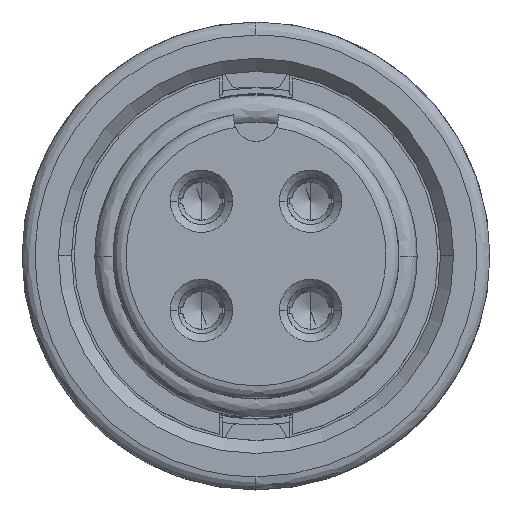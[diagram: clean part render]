
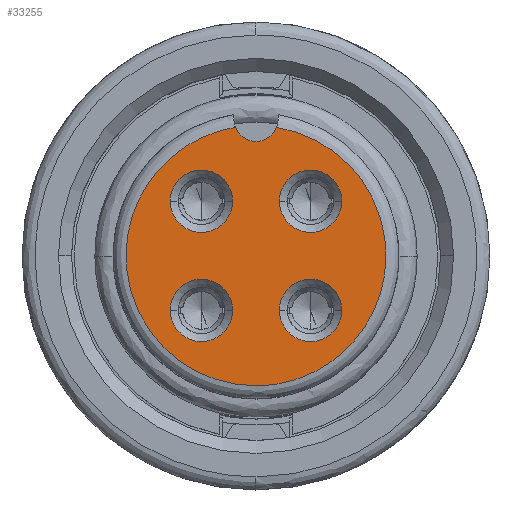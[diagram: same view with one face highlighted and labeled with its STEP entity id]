
A CAD part, top view. The second image highlights one B-rep face of the part: STEP entity #33255.
In plain terms, the highlighted planar face has unit normal (0, 0, 1).
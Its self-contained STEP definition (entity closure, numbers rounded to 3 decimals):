
#429 = CARTESIAN_POINT ( 'NONE',  ( 0.79, 4.937, 0. ) ) ;
#453 = CARTESIAN_POINT ( 'NONE',  ( 0.001, -0.031, 0. ) ) ;
#532 = ORIENTED_EDGE ( 'NONE', *, *, #28246, .T. ) ;
#1366 = DIRECTION ( 'NONE',  ( 0., 0., -1. ) ) ;
#1671 = CIRCLE ( 'NONE', #4071, 1.2 ) ;
#1727 = CIRCLE ( 'NONE', #33353, 1.2 ) ;
#1783 = AXIS2_PLACEMENT_3D ( 'NONE', #11179, #14167, #17366 ) ;
#2343 = CARTESIAN_POINT ( 'NONE',  ( -8.571, -4.896, 0. ) ) ;
#2472 = EDGE_CURVE ( 'NONE', #10173, #30025, #10443, .T. ) ;
#2699 = CARTESIAN_POINT ( 'NONE',  ( -0.79, 4.937, 0. ) ) ;
#3432 = PLANE ( 'NONE',  #16755 ) ;
#3855 = DIRECTION ( 'NONE',  ( 1., 0., 0. ) ) ;
#3883 = ORIENTED_EDGE ( 'NONE', *, *, #36364, .T. ) ;
#3912 = CARTESIAN_POINT ( 'NONE',  ( -0.061, -5., 0. ) ) ;
#3961 = CARTESIAN_POINT ( 'NONE',  ( -0.9, 2.1, 0. ) ) ;
#3971 = CARTESIAN_POINT ( 'NONE',  ( -3.3, -2.1, 0. ) ) ;
#3977 = VERTEX_POINT ( 'NONE', #33807 ) ;
#3980 = DIRECTION ( 'NONE',  ( 1., 0., 0. ) ) ;
#4071 = AXIS2_PLACEMENT_3D ( 'NONE', #23406, #17262, #8645 ) ;
#4494 = EDGE_CURVE ( 'NONE', #32514, #3977, #20882, .T. ) ;
#5458 = DIRECTION ( 'NONE',  ( 0., 0., -1. ) ) ;
#5495 = CARTESIAN_POINT ( 'NONE',  ( -0.061, -5., 0. ) ) ;
#5694 = DIRECTION ( 'NONE',  ( 1., 0., 0. ) ) ;
#5826 = EDGE_LOOP ( 'NONE', ( #9621, #532 ) ) ;
#5859 = CARTESIAN_POINT ( 'NONE',  ( 9.38, 3.562, 0. ) ) ;
#7075 = ORIENTED_EDGE ( 'NONE', *, *, #13861, .T. ) ;
#7163 = ORIENTED_EDGE ( 'NONE', *, *, #9454, .T. ) ;
#8645 = DIRECTION ( 'NONE',  ( 1., 0., 0. ) ) ;
#9392 = CIRCLE ( 'NONE', #15481, 1.2 ) ;
#9454 = EDGE_CURVE ( 'NONE', #11632, #26529, #19552, .T. ) ;
#9621 = ORIENTED_EDGE ( 'NONE', *, *, #2472, .T. ) ;
#10008 = DIRECTION ( 'NONE',  ( 1., 0., 0. ) ) ;
#10055 = DIRECTION ( 'NONE',  ( 0., 0., -1. ) ) ;
#10173 = VERTEX_POINT ( 'NONE', #30697 ) ;
#10443 = CIRCLE ( 'NONE', #14634, 1.2 ) ;
#11179 = CARTESIAN_POINT ( 'NONE',  ( -2.1, -2.1, 0. ) ) ;
#11538 = VERTEX_POINT ( 'NONE', #3912 ) ;
#11632 = VERTEX_POINT ( 'NONE', #15686 ) ;
#11673 = VERTEX_POINT ( 'NONE', #18491 ) ;
#12076 = EDGE_CURVE ( 'NONE', #32514, #11538, #23631, .T. ) ;
#12251 = CARTESIAN_POINT ( 'NONE',  ( 2.1, -2.1, 0. ) ) ;
#12545 = DIRECTION ( 'NONE',  ( 0., 0., -1. ) ) ;
#13013 = EDGE_LOOP ( 'NONE', ( #23378, #35116, #20607 ) ) ;
#13466 = DIRECTION ( 'NONE',  ( 1., 0., 0. ) ) ;
#13861 = EDGE_CURVE ( 'NONE', #11673, #33564, #1671, .T. ) ;
#14167 = DIRECTION ( 'NONE',  ( 0., 0., -1. ) ) ;
#14177 = CARTESIAN_POINT ( 'NONE',  ( 0.79, 4.937, 0. ) ) ;
#14634 = AXIS2_PLACEMENT_3D ( 'NONE', #24165, #1366, #3980 ) ;
#15105 = CARTESIAN_POINT ( 'NONE',  ( 0.9, -2.1, 0. ) ) ;
#15481 = AXIS2_PLACEMENT_3D ( 'NONE', #15492, #10055, #26880 ) ;
#15492 = CARTESIAN_POINT ( 'NONE',  ( -2.1, -2.1, 0. ) ) ;
#15686 = CARTESIAN_POINT ( 'NONE',  ( 0.9, 2.1, 0. ) ) ;
#15992 = EDGE_CURVE ( 'NONE', #33564, #11673, #1727, .T. ) ;
#16755 = AXIS2_PLACEMENT_3D ( 'NONE', #453, #34085, #5694 ) ;
#16796 = CARTESIAN_POINT ( 'NONE',  ( 0., 5.25, 0. ) ) ;
#16928 = CARTESIAN_POINT ( 'NONE',  ( -9.194, 3.592, 0. ) ) ;
#17262 = DIRECTION ( 'NONE',  ( 0., 0., -1. ) ) ;
#17366 = DIRECTION ( 'NONE',  ( 1., 0., 0. ) ) ;
#17643 = FACE_BOUND ( 'NONE', #30484, .T. ) ;
#17815 = CARTESIAN_POINT ( 'NONE',  ( 2.1, 2.1, 0. ) ) ;
#17966 =( BOUNDED_CURVE ( )  B_SPLINE_CURVE ( 3, ( #19716, #2343, #16928, #2699 ),
 .UNSPECIFIED., .F., .F. ) 
 B_SPLINE_CURVE_WITH_KNOTS ( ( 4, 4 ),
 ( 0., 1. ),
 .UNSPECIFIED. ) 
 CURVE ( )  GEOMETRIC_REPRESENTATION_ITEM ( )  RATIONAL_B_SPLINE_CURVE ( ( 1., 0.39, 0.39, 1. ) ) 
 REPRESENTATION_ITEM ( '' )  );
#18360 = VERTEX_POINT ( 'NONE', #30076 ) ;
#18491 = CARTESIAN_POINT ( 'NONE',  ( 3.3, -2.1, 0. ) ) ;
#18707 = EDGE_LOOP ( 'NONE', ( #21242, #7075 ) ) ;
#18967 = AXIS2_PLACEMENT_3D ( 'NONE', #30016, #35971, #10008 ) ;
#19552 = CIRCLE ( 'NONE', #18967, 1.2 ) ;
#19716 = CARTESIAN_POINT ( 'NONE',  ( -0.061, -5., 0. ) ) ;
#19889 = ORIENTED_EDGE ( 'NONE', *, *, #31361, .T. ) ;
#19970 = ORIENTED_EDGE ( 'NONE', *, *, #23114, .T. ) ;
#20607 = ORIENTED_EDGE ( 'NONE', *, *, #34343, .F. ) ;
#20877 = DIRECTION ( 'NONE',  ( 1., 0., 0. ) ) ;
#20882 = CIRCLE ( 'NONE', #36960, 0.85 ) ;
#21242 = ORIENTED_EDGE ( 'NONE', *, *, #15992, .T. ) ;
#22690 = FACE_BOUND ( 'NONE', #35067, .T. ) ;
#23114 = EDGE_CURVE ( 'NONE', #26529, #11632, #23589, .T. ) ;
#23378 = ORIENTED_EDGE ( 'NONE', *, *, #12076, .F. ) ;
#23406 = CARTESIAN_POINT ( 'NONE',  ( 2.1, -2.1, 0. ) ) ;
#23428 = FACE_BOUND ( 'NONE', #18707, .T. ) ;
#23589 = CIRCLE ( 'NONE', #31323, 1.2 ) ;
#23612 = CIRCLE ( 'NONE', #26836, 1.2 ) ;
#23631 =( BOUNDED_CURVE ( )  B_SPLINE_CURVE ( 3, ( #429, #5859, #34063, #5495 ),
 .UNSPECIFIED., .F., .T. ) 
 B_SPLINE_CURVE_WITH_KNOTS ( ( 4, 4 ),
 ( 0., 1. ),
 .UNSPECIFIED. ) 
 CURVE ( )  GEOMETRIC_REPRESENTATION_ITEM ( )  RATIONAL_B_SPLINE_CURVE ( ( 1., 0.382, 0.382, 1. ) ) 
 REPRESENTATION_ITEM ( '' )  );
#24165 = CARTESIAN_POINT ( 'NONE',  ( -2.1, 2.1, 0. ) ) ;
#25252 = CARTESIAN_POINT ( 'NONE',  ( -2.1, 2.1, 0. ) ) ;
#26529 = VERTEX_POINT ( 'NONE', #30434 ) ;
#26836 = AXIS2_PLACEMENT_3D ( 'NONE', #25252, #5458, #13466 ) ;
#26880 = DIRECTION ( 'NONE',  ( 1., 0., 0. ) ) ;
#28246 = EDGE_CURVE ( 'NONE', #30025, #10173, #23612, .T. ) ;
#29022 = FACE_OUTER_BOUND ( 'NONE', #13013, .T. ) ;
#29191 = DIRECTION ( 'NONE',  ( 1., 0., 0. ) ) ;
#29639 = DIRECTION ( 'NONE',  ( 0., 0., -1. ) ) ;
#30016 = CARTESIAN_POINT ( 'NONE',  ( 2.1, 2.1, 0. ) ) ;
#30025 = VERTEX_POINT ( 'NONE', #3961 ) ;
#30076 = CARTESIAN_POINT ( 'NONE',  ( -0.9, -2.1, 0. ) ) ;
#30434 = CARTESIAN_POINT ( 'NONE',  ( 3.3, 2.1, 0. ) ) ;
#30484 = EDGE_LOOP ( 'NONE', ( #3883, #19889 ) ) ;
#30697 = CARTESIAN_POINT ( 'NONE',  ( -3.3, 2.1, 0. ) ) ;
#31055 = VERTEX_POINT ( 'NONE', #3971 ) ;
#31323 = AXIS2_PLACEMENT_3D ( 'NONE', #17815, #12545, #29191 ) ;
#31361 = EDGE_CURVE ( 'NONE', #18360, #31055, #33986, .T. ) ;
#31456 = FACE_BOUND ( 'NONE', #5826, .T. ) ;
#32514 = VERTEX_POINT ( 'NONE', #14177 ) ;
#33255 = ADVANCED_FACE ( 'NONE', ( #17643, #23428, #31456, #22690, #29022 ), #3432, .T. ) ;
#33353 = AXIS2_PLACEMENT_3D ( 'NONE', #12251, #35055, #20877 ) ;
#33564 = VERTEX_POINT ( 'NONE', #15105 ) ;
#33807 = CARTESIAN_POINT ( 'NONE',  ( -0.79, 4.937, 0. ) ) ;
#33986 = CIRCLE ( 'NONE', #1783, 1.2 ) ;
#34063 = CARTESIAN_POINT ( 'NONE',  ( 8.638, -5.106, 0. ) ) ;
#34085 = DIRECTION ( 'NONE',  ( 0., 0., 1. ) ) ;
#34343 = EDGE_CURVE ( 'NONE', #11538, #3977, #17966, .T. ) ;
#35055 = DIRECTION ( 'NONE',  ( 0., 0., -1. ) ) ;
#35067 = EDGE_LOOP ( 'NONE', ( #7163, #19970 ) ) ;
#35116 = ORIENTED_EDGE ( 'NONE', *, *, #4494, .T. ) ;
#35971 = DIRECTION ( 'NONE',  ( 0., 0., -1. ) ) ;
#36364 = EDGE_CURVE ( 'NONE', #31055, #18360, #9392, .T. ) ;
#36960 = AXIS2_PLACEMENT_3D ( 'NONE', #16796, #29639, #3855 ) ;
